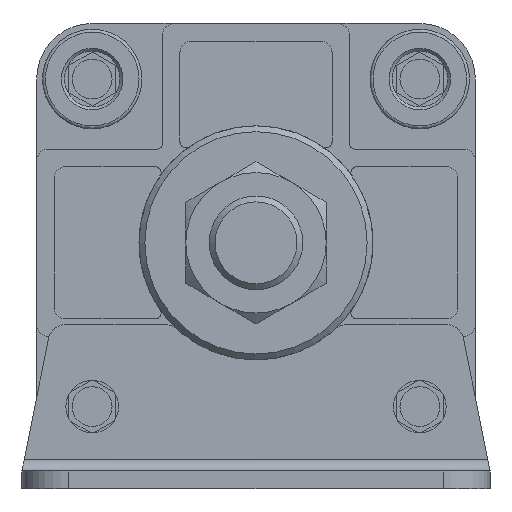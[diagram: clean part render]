
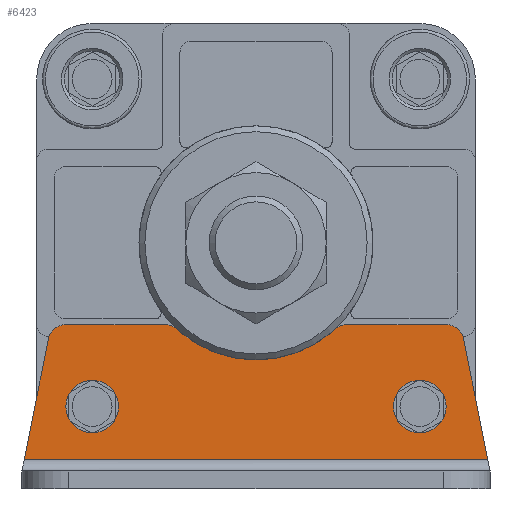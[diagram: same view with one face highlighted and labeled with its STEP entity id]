
A CAD part, front view. The second image highlights one B-rep face of the part: STEP entity #6423.
In plain terms, the highlighted planar face has unit normal (0, -1, 0).
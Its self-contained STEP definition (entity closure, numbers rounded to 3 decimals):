
#442=CIRCLE('',#6941,20.);
#443=CIRCLE('',#6942,3.);
#444=CIRCLE('',#6943,3.);
#445=CIRCLE('',#6944,3.);
#446=CIRCLE('',#6945,3.);
#447=CIRCLE('',#6946,4.5);
#448=CIRCLE('',#6947,4.5);
#1494=ORIENTED_EDGE('',*,*,#2301,.F.);
#1495=ORIENTED_EDGE('',*,*,#2302,.T.);
#1496=ORIENTED_EDGE('',*,*,#2283,.T.);
#1497=ORIENTED_EDGE('',*,*,#2303,.T.);
#1498=ORIENTED_EDGE('',*,*,#2296,.T.);
#1499=ORIENTED_EDGE('',*,*,#2304,.T.);
#1500=ORIENTED_EDGE('',*,*,#2293,.T.);
#1501=ORIENTED_EDGE('',*,*,#2305,.T.);
#1502=ORIENTED_EDGE('',*,*,#2289,.T.);
#1503=ORIENTED_EDGE('',*,*,#2306,.T.);
#1504=ORIENTED_EDGE('',*,*,#2307,.T.);
#1505=ORIENTED_EDGE('',*,*,#2308,.T.);
#2283=EDGE_CURVE('',#2784,#2785,#3180,.T.);
#2289=EDGE_CURVE('',#2791,#2790,#3186,.T.);
#2293=EDGE_CURVE('',#2795,#2794,#3190,.T.);
#2296=EDGE_CURVE('',#2797,#2798,#3192,.T.);
#2301=EDGE_CURVE('',#2802,#2803,#442,.F.);
#2302=EDGE_CURVE('',#2802,#2784,#443,.F.);
#2303=EDGE_CURVE('',#2785,#2797,#444,.F.);
#2304=EDGE_CURVE('',#2798,#2795,#3196,.T.);
#2305=EDGE_CURVE('',#2794,#2791,#445,.F.);
#2306=EDGE_CURVE('',#2790,#2803,#446,.F.);
#2307=EDGE_CURVE('',#2804,#2804,#447,.T.);
#2308=EDGE_CURVE('',#2805,#2805,#448,.T.);
#2784=VERTEX_POINT('',#9597);
#2785=VERTEX_POINT('',#9598);
#2790=VERTEX_POINT('',#9609);
#2791=VERTEX_POINT('',#9611);
#2794=VERTEX_POINT('',#9618);
#2795=VERTEX_POINT('',#9620);
#2797=VERTEX_POINT('',#9626);
#2798=VERTEX_POINT('',#9627);
#2802=VERTEX_POINT('',#9637);
#2803=VERTEX_POINT('',#9638);
#2804=VERTEX_POINT('',#9645);
#2805=VERTEX_POINT('',#9647);
#3180=LINE('',#9596,#3538);
#3186=LINE('',#9610,#3544);
#3190=LINE('',#9619,#3548);
#3192=LINE('',#9625,#3550);
#3196=LINE('',#9641,#3554);
#3538=VECTOR('',#8177,1000.);
#3544=VECTOR('',#8185,1000.);
#3548=VECTOR('',#8191,1000.);
#3550=VECTOR('',#8197,1000.);
#3554=VECTOR('',#8211,1000.);
#3880=EDGE_LOOP('',(#1494,#1495,#1496,#1497,#1498,#1499,#1500,#1501,#1502,
#1503));
#3881=EDGE_LOOP('',(#1504));
#3882=EDGE_LOOP('',(#1505));
#4264=FACE_BOUND('',#3880,.T.);
#4265=FACE_BOUND('',#3881,.T.);
#4266=FACE_BOUND('',#3882,.T.);
#4485=PLANE('',#6940);
#6423=ADVANCED_FACE('',(#4264,#4265,#4266),#4485,.F.);
#6940=AXIS2_PLACEMENT_3D('',#9635,#8203,#8204);
#6941=AXIS2_PLACEMENT_3D('',#9636,#8205,#8206);
#6942=AXIS2_PLACEMENT_3D('',#9639,#8207,#8208);
#6943=AXIS2_PLACEMENT_3D('',#9640,#8209,#8210);
#6944=AXIS2_PLACEMENT_3D('',#9642,#8212,#8213);
#6945=AXIS2_PLACEMENT_3D('',#9643,#8214,#8215);
#6946=AXIS2_PLACEMENT_3D('',#9644,#8216,#8217);
#6947=AXIS2_PLACEMENT_3D('',#9646,#8218,#8219);
#8177=DIRECTION('',(-1.,0.,0.));
#8185=DIRECTION('',(-1.,0.,0.));
#8191=DIRECTION('',(-0.196,0.,0.981));
#8197=DIRECTION('',(-0.196,0.,-0.981));
#8203=DIRECTION('',(0.,1.,0.));
#8204=DIRECTION('',(0.,0.,1.));
#8205=DIRECTION('',(0.,1.,0.));
#8206=DIRECTION('',(0.,0.,1.));
#8207=DIRECTION('',(0.,1.,0.));
#8208=DIRECTION('',(0.,0.,1.));
#8209=DIRECTION('',(0.,1.,0.));
#8210=DIRECTION('',(0.,0.,1.));
#8211=DIRECTION('',(1.,0.,0.));
#8212=DIRECTION('',(0.,1.,0.));
#8213=DIRECTION('',(0.,0.,1.));
#8214=DIRECTION('',(0.,1.,0.));
#8215=DIRECTION('',(0.,0.,1.));
#8216=DIRECTION('',(0.,1.,0.));
#8217=DIRECTION('',(1.,0.,0.));
#8218=DIRECTION('',(0.,1.,0.));
#8219=DIRECTION('',(1.,0.,0.));
#9596=CARTESIAN_POINT('',(15.199,-3.,-14.));
#9597=CARTESIAN_POINT('',(-15.492,-3.,-14.));
#9598=CARTESIAN_POINT('',(-32.541,-3.,-14.));
#9609=CARTESIAN_POINT('',(15.492,-3.,-14.));
#9610=CARTESIAN_POINT('',(15.199,-3.,-14.));
#9611=CARTESIAN_POINT('',(32.541,-3.,-14.));
#9618=CARTESIAN_POINT('',(35.482,-3.,-16.412));
#9619=CARTESIAN_POINT('',(35.,-3.,-14.));
#9620=CARTESIAN_POINT('',(39.6,-3.,-37.));
#9625=CARTESIAN_POINT('',(-35.,-3.,-14.));
#9626=CARTESIAN_POINT('',(-35.482,-3.,-16.412));
#9627=CARTESIAN_POINT('',(-39.6,-3.,-37.));
#9635=CARTESIAN_POINT('',(0.,-3.,-1.));
#9636=CARTESIAN_POINT('',(0.,-3.,0.));
#9637=CARTESIAN_POINT('',(-13.471,-3.,-14.783));
#9638=CARTESIAN_POINT('',(13.471,-3.,-14.783));
#9639=CARTESIAN_POINT('',(-15.492,-3.,-17.));
#9640=CARTESIAN_POINT('',(-32.541,-3.,-17.));
#9641=CARTESIAN_POINT('',(0.,-3.,-37.));
#9642=CARTESIAN_POINT('',(32.541,-3.,-17.));
#9643=CARTESIAN_POINT('',(15.492,-3.,-17.));
#9644=CARTESIAN_POINT('',(-28.,-3.,-28.));
#9645=CARTESIAN_POINT('',(-23.5,-3.,-28.));
#9646=CARTESIAN_POINT('',(28.,-3.,-28.));
#9647=CARTESIAN_POINT('',(32.5,-3.,-28.));
